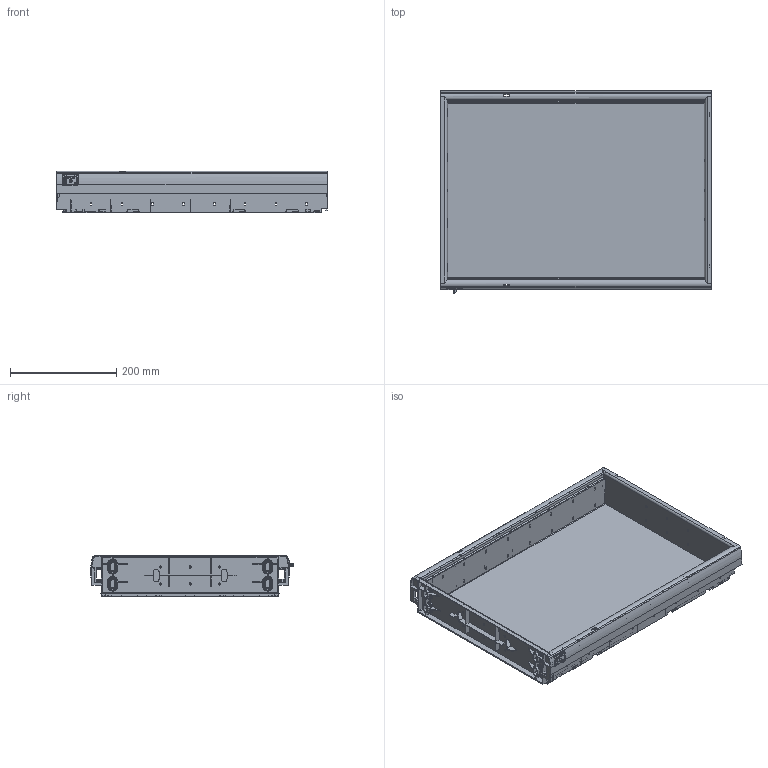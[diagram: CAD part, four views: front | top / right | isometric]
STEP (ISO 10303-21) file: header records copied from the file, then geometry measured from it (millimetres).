
FILE_DESCRIPTION (( 'STEP AP214' ), '1' );
FILE_NAME ('BBP-OP V zásuvka 510 mm plastová èerná_361859_3D.STEP', '2020-12-01T13:51:15', ( '' ), ( '' ), 'SwSTEP 2.0', 'SolidWorks 2019', '' );
FILE_SCHEMA (( 'AUTOMOTIVE_DESIGN' ));
Length unit declared in the file: millimetre
Products named in the file (4): BBP-OP V zásuvka 510 mm plastová èerná_361859_3D; 0484-01-Schliesskasten^BBP-OP V zásuvka 510 mm plastová èerná_361859_3D; Federzapfen^BBP-OP V zásuvka 510 mm plastová èerná_361859_3D; 0480_03_09_00-Orgasette_plusV_510_V2^BBP-OP V zásuvka 510 mm plastová èerná_361859_3D
Assembly tree (3 placements, depth 2):
  BBP-OP V zásuvka 510 mm plastová èerná_361859_3D
    0484-01-Schliesskasten^BBP-OP V zásuvka 510 mm plastová èerná_361859_3D
    Federzapfen^BBP-OP V zásuvka 510 mm plastová èerná_361859_3D
    0480_03_09_00-Orgasette_plusV_510_V2^BBP-OP V zásuvka 510 mm plastová èerná_361859_3D
Bounding box: 510 x 381.41 x 78 mm (x, y, z)
Volume: 900982.4 mm3; surface area: 850234.7 mm2
Topology: 3 solids, 3 shells, 2918 faces, 7960 edges, 5175 vertices
Faces by surface type: plane 1569, cylinder 673, cone 393, bspline 132, sphere 83, torus 68
Entity records: 109145 total; most frequent: CARTESIAN_POINT 38551, ORIENTED_EDGE 15846, DIRECTION 12007, EDGE_CURVE 7923, VERTEX_POINT 5169, LINE 4053, VECTOR 4053, AXIS2_PLACEMENT_3D 3977
